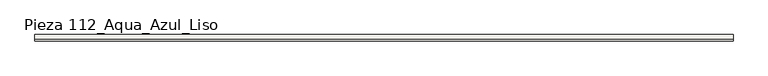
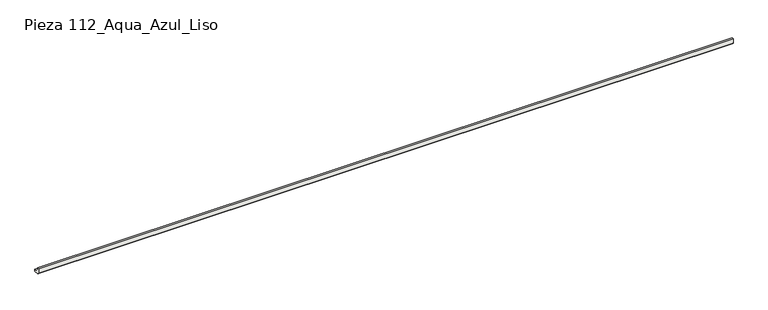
"""IFC4 building model written with IfcOpenShell, lengths in millimetres: slab geometry, ROSA GRES_112 : Pieza 112_Aqua_Azul_Liso."""

from ifc_helpers import new_model, si_unit, point, frame, frame_2d, origin, place, context, project, spatial, polyline, circle_curve, trimmed, segment, composite_curve, outline, extrude, source, transform, mapped, element, save


def pieza_112_aqua_azul_liso_ddc9c549(model_context):
    return source(origin(), model_context, "Body", "SweptSolid", [
        extrude(outline(composite_curve([segment(polyline([(0.0, 8.7114978), (0.0, 40.0), (9.9734114, 40.0)]), True, "CONTINUOUS"), segment(trimmed(circle_curve(frame_2d((39.9955547, 39.9955547)), 30.0221435), [point((9.9734114, 40.0))], [point((40.0, 9.9734114))], True, "CARTESIAN"), True, "CONTINUOUS"), segment(polyline([(40.0, 9.9734114), (40.0, 0.0), (8.7114978, 0.0), (0.0, 8.7114978)]), True, "CONTINUOUS")], self_intersect=False)), frame((0.0, 0.0, 0.0), z_axis=(1.0, 0.0, 0.0), x_axis=(0.0, 1.0, 0.0)), (0.0, 0.0, 1.0), 4277.3312234),
    ])


if __name__ == "__main__":
    model = new_model("IFC4")
    model_context = context("Model", 3, world=origin())
    ifc_project = project(units=[si_unit("LENGTHUNIT", "METRE", prefix="MILLI")], contexts=[model_context])
    site = spatial("IfcSite", under=ifc_project)
    building = spatial("IfcBuilding", under=site)
    placement = place(None, origin())
    pieza_112_aqua_azul_liso_shape = pieza_112_aqua_azul_liso_ddc9c549(model_context)
    element("IfcSlab", 1, ObjectType="ROSA GRES_112 : Pieza 112_Aqua_Azul_Liso", at=placement, inside=building, context=model_context, shape_type="MappedRepresentation", body=[
        mapped(pieza_112_aqua_azul_liso_shape, transform((0.0, 0.0, 0.0), x_axis=(1.0, 0.0, 0.0), y_axis=(0.0, 1.0, 0.0), z_axis=(0.0, 0.0, 1.0))),
    ])
    save(model, "model.ifc")
